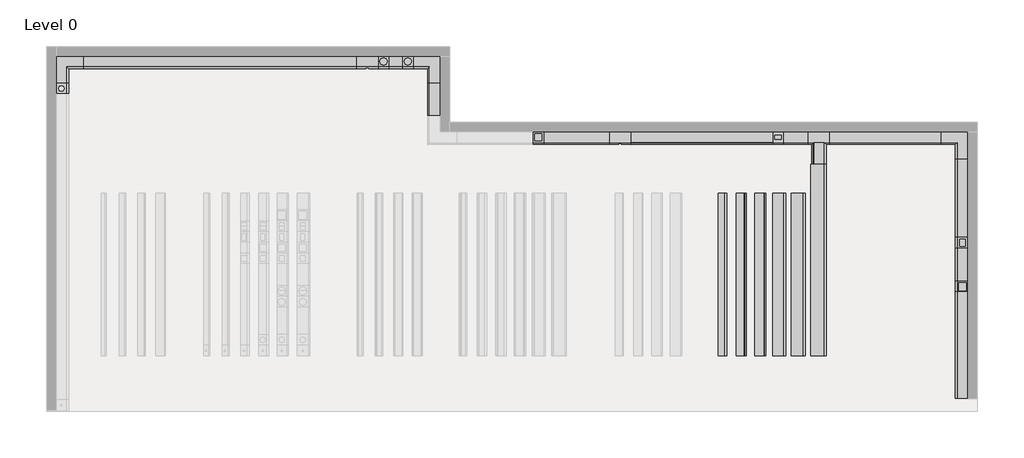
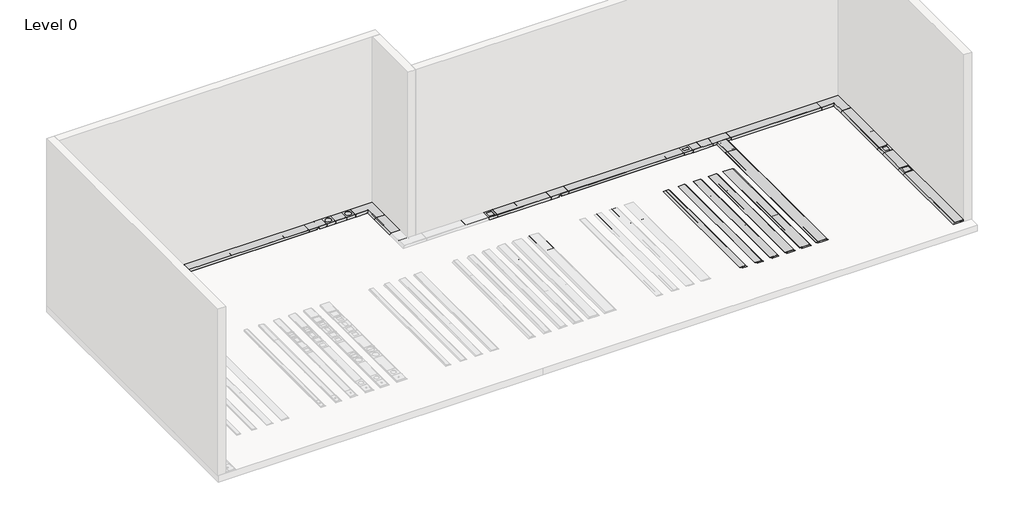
# One storey, part 3 of 3: 47 cable carrier segments, 39 cable carrier fittings, 29 proxies.
"""IFC4 building model written with IfcOpenShell, lengths in millimetres."""

from ifc_helpers import new_model, si_unit, origin, origin_with_axes, place, context, project, spatial, polyline, outline, extrude, transform, mapped, element, save
from components import electrical_fixtures_901f275d, electrical_fixtures_66444e16, electrical_fixtures_59ef84c7, electrical_fixtures_748fc352, electrical_fixtures_5756d35e, electrical_fixtures_1408edab, electrical_fixtures_3be69e12, electrical_fixtures_9ff76af0, electrical_fixtures_7f6fa224, electrical_fixtures_e28efdc0, electrical_fixtures_bae31a8f, electrical_fixtures_b7c22ff1, electrical_fixtures_50d1a96e, electrical_fixtures_1ceebba5, electrical_fixtures_9c56483d, electrical_fixtures_e8eaa7e9, electrical_fixtures_8222793d, electrical_fixtures_f985ebad, electrical_fixtures_32ec25d4, electrical_fixtures_12f8da98, electrical_fixtures_5da70066, electrical_fixtures_c9ef2ea7, electrical_fixtures_32676175, electrical_fixtures_a9ae5c8e, electrical_fixtures_914368cf, electrical_fixtures_8f7f6b38, electrical_fixtures_e075263a, cable_carrier_fitting_c523f5b3, cable_carrier_fitting_c61de814, cable_carrier_fitting_a1d8f8d7, cable_carrier_fitting_54bbb1a4, cable_carrier_fitting_d6a7fd45, cable_carrier_fitting_88479c70, cable_carrier_fitting_c839ef92, cable_carrier_fitting_48e664ff, cable_carrier_fitting_379b033f, cable_carrier_fitting_430507f7, cable_carrier_fitting_90cd9352, cable_carrier_fitting_27d71de1, cable_carrier_fitting_f198d34f, cable_carrier_fitting_eb91abf8

model = new_model("IFC4")

# Units and contexts
model_context = context("Model", 3, world=origin())
ifc_project = project(units=[si_unit("LENGTHUNIT", "METRE", prefix="MILLI")], contexts=[model_context])

# Site, building, storey
site = spatial("IfcSite", under=ifc_project)
building = spatial("IfcBuilding", under=site)
storey = spatial("IfcBuildingStorey", under=building, Name="Level 0", Elevation=0.0)

# Proxies
placement = place(None, origin())
electrical_fixtures_shape = electrical_fixtures_901f275d(model_context)
element("IfcBuildingElementProxy", 1, Name="Electrical_Installation_Hager_Connection-Single-Sided : Electrical_Installation_Hager_Connection-Single-Sided", ObjectType="Electrical_Installation_Hager_Connection-Single-Sided : Electrical_Installation_Hager_Connection-Single-Sided", at=placement, inside=storey, context=model_context, shape_type="MappedRepresentation", body=[
    mapped(electrical_fixtures_shape, transform((3314.0029362, 1709.7565979, 35.0), x_axis=(1.0, 0.0, 0.0), y_axis=(0.0, 1.0, 0.0), z_axis=(0.0, 0.0, 1.0))),
])
element("IfcBuildingElementProxy", 2, Name="Electrical_Installation_Hager_Connection-Single-Sided : Electrical_Installation_Hager_Connection-Single-Sided", ObjectType="Electrical_Installation_Hager_Connection-Single-Sided : Electrical_Installation_Hager_Connection-Single-Sided", at=placement, inside=storey, context=model_context, shape_type="MappedRepresentation", body=[
    mapped(electrical_fixtures_shape, transform((12654.0029362, -1090.2434021, 35.0), x_axis=(1.0, 0.0, 0.0), y_axis=(0.0, 1.0, 0.0), z_axis=(0.0, 0.0, 1.0))),
])
electrical_fixtures_2_shape = electrical_fixtures_66444e16(model_context)
element("IfcBuildingElementProxy", 3, Name="Electrical_Installation_Hager_Covers-With-Installation-Opening-E04 : Electrical_Installation_Hager_Covers-With-Installation-Opening-E04", ObjectType="Electrical_Installation_Hager_Covers-With-Installation-Opening-E04 : Electrical_Installation_Hager_Covers-With-Installation-Opening-E04", at=placement, inside=storey, context=model_context, shape_type="MappedRepresentation", body=[
    mapped(electrical_fixtures_2_shape, transform((18690.9359084, -1090.2434021, 35.0), x_axis=(1.0, 0.0, 0.0), y_axis=(0.0, 1.0, 0.0), z_axis=(0.0, 0.0, 1.0))),
])
electrical_fixtures_3_shape = electrical_fixtures_59ef84c7(model_context)
element("IfcBuildingElementProxy", 4, Name="Electrical_Installation_Hager_Covers-With-Installation-Opening-E09 : Electrical_Installation_Hager_Covers-With-Installation-Opening-E09", ObjectType="Electrical_Installation_Hager_Covers-With-Installation-Opening-E09 : Electrical_Installation_Hager_Covers-With-Installation-Opening-E09", at=placement, inside=storey, context=model_context, shape_type="MappedRepresentation", body=[
    mapped(electrical_fixtures_3_shape, transform((25710.9359084, -4790.2434021, 35.0), x_axis=(0.0, -1.0000000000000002, 0.0), y_axis=(1.0000000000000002, 0.0, 0.0), z_axis=(0.0, 0.0, 1.0))),
])
electrical_fixtures_4_shape = electrical_fixtures_748fc352(model_context)
element("IfcBuildingElementProxy", 5, Name="Electrical_Installation_Hager_Covers-With-Installation-Opening-Q06 : Electrical_Installation_Hager_Covers-With-Installation-Opening-Q06", ObjectType="Electrical_Installation_Hager_Covers-With-Installation-Opening-Q06 : Electrical_Installation_Hager_Covers-With-Installation-Opening-Q06", at=placement, inside=storey, context=model_context, shape_type="MappedRepresentation", body=[
    mapped(electrical_fixtures_4_shape, transform((-3445.9970638, 1709.7565979, 35.0), x_axis=(1.0, 0.0, 0.0), y_axis=(0.0, 1.0, 0.0), z_axis=(0.0, 0.0, 1.0))),
])
electrical_fixtures_5_shape = electrical_fixtures_5756d35e(model_context)
element("IfcBuildingElementProxy", 6, Name="Electrical_Installation_Hager_Covers-With-Installation-Opening-Q08 : Electrical_Installation_Hager_Covers-With-Installation-Opening-Q08", ObjectType="Electrical_Installation_Hager_Covers-With-Installation-Opening-Q08 : Electrical_Installation_Hager_Covers-With-Installation-Opening-Q08", at=placement, inside=storey, context=model_context, shape_type="MappedRepresentation", body=[
    mapped(electrical_fixtures_5_shape, transform((25710.9359084, -6410.2434021, 35.0), x_axis=(0.0, -1.0000000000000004, 0.0), y_axis=(1.0000000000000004, 0.0, 0.0), z_axis=(0.0, 0.0, 1.0))),
])
electrical_fixtures_6_shape = electrical_fixtures_1408edab(model_context)
element("IfcBuildingElementProxy", 7, Name="Electrical_Installation_Hager_Covers-With-Installation-Opening-Q12 : Electrical_Installation_Hager_Covers-With-Installation-Opening-Q12", ObjectType="Electrical_Installation_Hager_Covers-With-Installation-Opening-Q12 : Electrical_Installation_Hager_Covers-With-Installation-Opening-Q12", at=placement, inside=storey, context=model_context, shape_type="MappedRepresentation", body=[
    mapped(electrical_fixtures_6_shape, transform((9832.4694223, -1090.2434021, 35.0), x_axis=(1.0, 0.0, 0.0), y_axis=(0.0, 1.0, 0.0), z_axis=(0.0, 0.0, 1.0))),
])
electrical_fixtures_7_shape = electrical_fixtures_3be69e12(model_context)
element("IfcBuildingElementProxy", 8, Name="Electrical_Installation_Hager_Covers-With-Installation-Opening-R06 : Electrical_Installation_Hager_Covers-With-Installation-Opening-R06", ObjectType="Electrical_Installation_Hager_Covers-With-Installation-Opening-R06 : Electrical_Installation_Hager_Covers-With-Installation-Opening-R06", at=placement, inside=storey, context=model_context, shape_type="MappedRepresentation", body=[
    mapped(electrical_fixtures_7_shape, transform((-7589.0640916, 509.7565979, 35.0), x_axis=(0.0, 1.0000000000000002, 0.0), y_axis=(-1.0000000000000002, 0.0, 0.0), z_axis=(0.0, 0.0, 1.0))),
])
electrical_fixtures_8_shape = electrical_fixtures_9ff76af0(model_context)
element("IfcBuildingElementProxy", 9, Name="Electrical_Installation_Hager_Blank-Cover-800mm-Double-Sided-Extended-100-Height-70mm : Electrical_Installation_Hager_Blank-Cover-800mm-Double-Sided-Extended-100-Height-70mm", ObjectType="Electrical_Installation_Hager_Blank-Cover-800mm-Double-Sided-Extended-100-Height-70mm : Electrical_Installation_Hager_Blank-Cover-800mm-Double-Sided-Extended-100-Height-70mm", at=placement, inside=storey, context=model_context, shape_type="MappedRepresentation", body=[
    mapped(electrical_fixtures_8_shape, transform((19654.0029362, -9175.7909265, 35.0), x_axis=(0.0, 1.0, 0.0), y_axis=(-1.0, 0.0, 0.0), z_axis=(0.0, 0.0, 1.0))),
])
electrical_fixtures_9_shape = electrical_fixtures_7f6fa224(model_context)
element("IfcBuildingElementProxy", 10, Name="Electrical_Installation_Hager_Blank-Cover-800mm-Double-Sided-Extended-100-Height-70mm : Electrical_Installation_Hager_Blank-Cover-800mm-Double-Sided-Extended-100-Height-70mm", ObjectType="Electrical_Installation_Hager_Blank-Cover-800mm-Double-Sided-Extended-100-Height-70mm : Electrical_Installation_Hager_Blank-Cover-800mm-Double-Sided-Extended-100-Height-70mm", at=placement, inside=storey, context=model_context, shape_type="MappedRepresentation", body=[
    mapped(electrical_fixtures_9_shape, transform((20406.0429197, -9175.7909265, 35.0), x_axis=(0.0, 1.0, 0.0), y_axis=(-1.0, 0.0, 0.0), z_axis=(0.0, 0.0, 1.0))),
])
electrical_fixtures_10_shape = electrical_fixtures_e28efdc0(model_context)
element("IfcBuildingElementProxy", 11, Name="Electrical_Installation_Hager_Blank-Cover-800mm-Double-Sided-Extended-100-Height-70mm : Electrical_Installation_Hager_Blank-Cover-800mm-Double-Sided-Extended-100-Height-70mm", ObjectType="Electrical_Installation_Hager_Blank-Cover-800mm-Double-Sided-Extended-100-Height-70mm : Electrical_Installation_Hager_Blank-Cover-800mm-Double-Sided-Extended-100-Height-70mm", at=placement, inside=storey, context=model_context, shape_type="MappedRepresentation", body=[
    mapped(electrical_fixtures_10_shape, transform((18954.0029362, -9175.7909265, 35.0), x_axis=(0.0, 1.0, 0.0), y_axis=(-1.0, 0.0, 0.0), z_axis=(0.0, 0.0, 1.0))),
])
electrical_fixtures_11_shape = electrical_fixtures_bae31a8f(model_context)
element("IfcBuildingElementProxy", 12, Name="Electrical_Installation_Hager_Blank-Cover-800mm-Single-Sided-Height-70mm : Electrical_Installation_Hager_Blank-Cover-800mm-Single-Sided-Height-70mm", ObjectType="Electrical_Installation_Hager_Blank-Cover-800mm-Single-Sided-Height-70mm : Electrical_Installation_Hager_Blank-Cover-800mm-Single-Sided-Height-70mm", at=placement, inside=storey, context=model_context, shape_type="MappedRepresentation", body=[
    mapped(electrical_fixtures_11_shape, transform((-6789.0640916, 1709.7565979, 35.0), x_axis=(1.0, 0.0, 0.0), y_axis=(0.0, 1.0, 0.0), z_axis=(0.0, 0.0, 1.0))),
])
electrical_fixtures_12_shape = electrical_fixtures_b7c22ff1(model_context)
element("IfcBuildingElementProxy", 13, Name="Electrical_Installation_Hager_Blank-Cover-800mm-Single-Sided-Height-70mm : Electrical_Installation_Hager_Blank-Cover-800mm-Single-Sided-Height-70mm", ObjectType="Electrical_Installation_Hager_Blank-Cover-800mm-Single-Sided-Height-70mm : Electrical_Installation_Hager_Blank-Cover-800mm-Single-Sided-Height-70mm", at=placement, inside=storey, context=model_context, shape_type="MappedRepresentation", body=[
    mapped(electrical_fixtures_12_shape, transform((4514.0029362, 1709.7565979, 35.0), x_axis=(1.0, 0.0, 0.0), y_axis=(0.0, 1.0, 0.0), z_axis=(0.0, 0.0, 1.0))),
])
electrical_fixtures_13_shape = electrical_fixtures_50d1a96e(model_context)
element("IfcBuildingElementProxy", 14, Name="Electrical_Installation_Hager_Blank-Cover-800mm-Single-Sided-Height-70mm : Electrical_Installation_Hager_Blank-Cover-800mm-Single-Sided-Height-70mm", ObjectType="Electrical_Installation_Hager_Blank-Cover-800mm-Single-Sided-Height-70mm : Electrical_Installation_Hager_Blank-Cover-800mm-Single-Sided-Height-70mm", at=placement, inside=storey, context=model_context, shape_type="MappedRepresentation", body=[
    mapped(electrical_fixtures_13_shape, transform((6210.9359084, 909.7565979, 35.0), x_axis=(0.0, -1.0, 0.0), y_axis=(1.0, 0.0, 0.0), z_axis=(0.0, 0.0, 1.0))),
])
electrical_fixtures_14_shape = electrical_fixtures_1ceebba5(model_context)
element("IfcBuildingElementProxy", 15, Name="Electrical_Installation_Hager_Blank-Cover-800mm-Single-Sided-Height-70mm : Electrical_Installation_Hager_Blank-Cover-800mm-Single-Sided-Height-70mm", ObjectType="Electrical_Installation_Hager_Blank-Cover-800mm-Single-Sided-Height-70mm : Electrical_Installation_Hager_Blank-Cover-800mm-Single-Sided-Height-70mm", at=placement, inside=storey, context=model_context, shape_type="MappedRepresentation", body=[
    mapped(electrical_fixtures_14_shape, transform((10232.4694223, -1090.2434021, 35.0), x_axis=(1.0, 0.0, 0.0), y_axis=(0.0, 1.0, 0.0), z_axis=(0.0, 0.0, 1.0))),
])
electrical_fixtures_15_shape = electrical_fixtures_9c56483d(model_context)
element("IfcBuildingElementProxy", 16, Name="Electrical_Installation_Hager_Blank-Cover-800mm-Single-Sided-Height-70mm : Electrical_Installation_Hager_Blank-Cover-800mm-Single-Sided-Height-70mm", ObjectType="Electrical_Installation_Hager_Blank-Cover-800mm-Single-Sided-Height-70mm : Electrical_Installation_Hager_Blank-Cover-800mm-Single-Sided-Height-70mm", at=placement, inside=storey, context=model_context, shape_type="MappedRepresentation", body=[
    mapped(electrical_fixtures_15_shape, transform((20806.0429197, -1090.2434021, 35.0), x_axis=(1.0, 0.0, 0.0), y_axis=(0.0, 1.0, 0.0), z_axis=(0.0, 0.0, 1.0))),
])
electrical_fixtures_16_shape = electrical_fixtures_e8eaa7e9(model_context)
element("IfcBuildingElementProxy", 17, Name="Electrical_Installation_Hager_Blank-Cover-800mm-Single-Sided-Height-70mm : Electrical_Installation_Hager_Blank-Cover-800mm-Single-Sided-Height-70mm", ObjectType="Electrical_Installation_Hager_Blank-Cover-800mm-Single-Sided-Height-70mm : Electrical_Installation_Hager_Blank-Cover-800mm-Single-Sided-Height-70mm", at=placement, inside=storey, context=model_context, shape_type="MappedRepresentation", body=[
    mapped(electrical_fixtures_16_shape, transform((25710.9359084, -6810.2434021, 35.0), x_axis=(0.0, -1.0, 0.0), y_axis=(1.0, 0.0, 0.0), z_axis=(0.0, 0.0, 1.0))),
])
electrical_fixtures_17_shape = electrical_fixtures_8222793d(model_context)
element("IfcBuildingElementProxy", 18, Name="Electrical_Installation_Hager_Blank-Cover-800mm-Single-Sided-Height-70mm : Electrical_Installation_Hager_Blank-Cover-800mm-Single-Sided-Height-70mm", ObjectType="Electrical_Installation_Hager_Blank-Cover-800mm-Single-Sided-Height-70mm : Electrical_Installation_Hager_Blank-Cover-800mm-Single-Sided-Height-70mm", at=placement, inside=storey, context=model_context, shape_type="MappedRepresentation", body=[
    mapped(electrical_fixtures_17_shape, transform((13454.0029362, -1090.2434021, 35.0), x_axis=(1.0, 0.0, 0.0), y_axis=(0.0, 1.0, 0.0), z_axis=(0.0, 0.0, 1.0))),
])
electrical_fixtures_18_shape = electrical_fixtures_f985ebad(model_context)
element("IfcBuildingElementProxy", 19, Name="Electrical_Installation_Hager_Blank-Cover-800mm-Single-Sided-Height-70mm : Electrical_Installation_Hager_Blank-Cover-800mm-Single-Sided-Height-70mm", ObjectType="Electrical_Installation_Hager_Blank-Cover-800mm-Single-Sided-Height-70mm : Electrical_Installation_Hager_Blank-Cover-800mm-Single-Sided-Height-70mm", at=placement, inside=storey, context=model_context, shape_type="MappedRepresentation", body=[
    mapped(electrical_fixtures_18_shape, transform((25710.9359084, -5190.2434021, 35.0), x_axis=(0.0, -1.0, 0.0), y_axis=(1.0, 0.0, 0.0), z_axis=(0.0, 0.0, 1.0))),
])
electrical_fixtures_19_shape = electrical_fixtures_32ec25d4(model_context)
element("IfcBuildingElementProxy", 20, Name="Electrical_Installation_Hager_Blank-Cover-800mm-Single-Sided-Height-70mm : Electrical_Installation_Hager_Blank-Cover-800mm-Single-Sided-Height-70mm", ObjectType="Electrical_Installation_Hager_Blank-Cover-800mm-Single-Sided-Height-70mm : Electrical_Installation_Hager_Blank-Cover-800mm-Single-Sided-Height-70mm", at=placement, inside=storey, context=model_context, shape_type="MappedRepresentation", body=[
    mapped(electrical_fixtures_19_shape, transform((25710.9359084, -1890.2434021, 35.0), x_axis=(0.0, -1.0, 0.0), y_axis=(1.0, 0.0, 0.0), z_axis=(0.0, 0.0, 1.0))),
])
electrical_fixtures_20_shape = electrical_fixtures_12f8da98(model_context)
element("IfcBuildingElementProxy", 21, Name="Electrical_Installation_Hager_Blank-Cover-800mm-Single-Sided-Height-70mm : Electrical_Installation_Hager_Blank-Cover-800mm-Single-Sided-Height-70mm", ObjectType="Electrical_Installation_Hager_Blank-Cover-800mm-Single-Sided-Height-70mm : Electrical_Installation_Hager_Blank-Cover-800mm-Single-Sided-Height-70mm", at=placement, inside=storey, context=model_context, shape_type="MappedRepresentation", body=[
    mapped(electrical_fixtures_20_shape, transform((20006.0429197, -1090.2434021, 35.0), x_axis=(-1.0, 0.0, 0.0), y_axis=(0.0, -1.0, 0.0), z_axis=(0.0, 0.0, 1.0))),
])
electrical_fixtures_21_shape = electrical_fixtures_5da70066(model_context)
element("IfcBuildingElementProxy", 22, Name="Electrical_Installation_Hager_Partition-Wall : Electrical_Installation_Hager_Partition-Wall", ObjectType="Electrical_Installation_Hager_Partition-Wall : Electrical_Installation_Hager_Partition-Wall", at=placement, inside=storey, context=model_context, shape_type="MappedRepresentation", body=[
    mapped(electrical_fixtures_21_shape, transform((-7658.0640916, 1709.7565979, 35.0), x_axis=(1.0, 0.0, 0.0), y_axis=(0.0, 1.0, 0.0), z_axis=(0.0, 0.0, 1.0))),
])
electrical_fixtures_22_shape = electrical_fixtures_c9ef2ea7(model_context)
element("IfcBuildingElementProxy", 23, Name="Electrical_Installation_Hager_Partition-Wall : Electrical_Installation_Hager_Partition-Wall", ObjectType="Electrical_Installation_Hager_Partition-Wall : Electrical_Installation_Hager_Partition-Wall", at=placement, inside=storey, context=model_context, shape_type="MappedRepresentation", body=[
    mapped(electrical_fixtures_22_shape, transform((6210.9359084, 1778.7565979, 35.0), x_axis=(0.0, -1.0, 0.0), y_axis=(1.0, 0.0, 0.0), z_axis=(0.0, 0.0, 1.0))),
])
electrical_fixtures_23_shape = electrical_fixtures_32676175(model_context)
element("IfcBuildingElementProxy", 24, Name="Electrical_Installation_Hager_Partition-Wall : Electrical_Installation_Hager_Partition-Wall", ObjectType="Electrical_Installation_Hager_Partition-Wall : Electrical_Installation_Hager_Partition-Wall", at=placement, inside=storey, context=model_context, shape_type="MappedRepresentation", body=[
    mapped(electrical_fixtures_23_shape, transform((25710.9359084, -1021.2434021, 35.0), x_axis=(0.0, -1.0, 0.0), y_axis=(1.0, 0.0, 0.0), z_axis=(0.0, 0.0, 1.0))),
])
electrical_fixtures_24_shape = electrical_fixtures_a9ae5c8e(model_context)
element("IfcBuildingElementProxy", 25, Name="Electrical_Installation_Hager_Blank-Cover-400mm-Double-Sided-Extended-100-Height-70mm : Electrical_Installation_Hager_Blank-Cover-400mm-Double-Sided-Extended-100-Height-70mm", ObjectType="Electrical_Installation_Hager_Blank-Cover-400mm-Double-Sided-Extended-100-Height-70mm : Electrical_Installation_Hager_Blank-Cover-400mm-Double-Sided-Extended-100-Height-70mm", at=placement, inside=storey, context=model_context, shape_type="MappedRepresentation", body=[
    mapped(electrical_fixtures_24_shape, transform((16854.0029362, -9175.7909265, 35.0), x_axis=(0.0, 1.0, 0.0), y_axis=(-1.0, 0.0, 0.0), z_axis=(0.0, 0.0, 1.0))),
])
electrical_fixtures_25_shape = electrical_fixtures_914368cf(model_context)
element("IfcBuildingElementProxy", 26, Name="Electrical_Installation_Hager_Blank-Cover-400mm-Double-Sided-Extended-100-Height-70mm : Electrical_Installation_Hager_Blank-Cover-400mm-Double-Sided-Extended-100-Height-70mm", ObjectType="Electrical_Installation_Hager_Blank-Cover-400mm-Double-Sided-Extended-100-Height-70mm : Electrical_Installation_Hager_Blank-Cover-400mm-Double-Sided-Extended-100-Height-70mm", at=placement, inside=storey, context=model_context, shape_type="MappedRepresentation", body=[
    mapped(electrical_fixtures_25_shape, transform((17554.0029362, -9175.7909265, 35.0), x_axis=(0.0, 1.0, 0.0), y_axis=(-1.0, 0.0, 0.0), z_axis=(0.0, 0.0, 1.0))),
])
electrical_fixtures_26_shape = electrical_fixtures_8f7f6b38(model_context)
element("IfcBuildingElementProxy", 27, Name="Electrical_Installation_Hager_Blank-Cover-400mm-Double-Sided-Extended-100-Height-70mm : Electrical_Installation_Hager_Blank-Cover-400mm-Double-Sided-Extended-100-Height-70mm", ObjectType="Electrical_Installation_Hager_Blank-Cover-400mm-Double-Sided-Extended-100-Height-70mm : Electrical_Installation_Hager_Blank-Cover-400mm-Double-Sided-Extended-100-Height-70mm", at=placement, inside=storey, context=model_context, shape_type="MappedRepresentation", body=[
    mapped(electrical_fixtures_26_shape, transform((18254.0029362, -9175.7909265, 35.0), x_axis=(0.0, 1.0, 0.0), y_axis=(-1.0, 0.0, 0.0), z_axis=(0.0, 0.0, 1.0))),
])
electrical_fixtures_27_shape = electrical_fixtures_e075263a(model_context)
element("IfcBuildingElementProxy", 28, Name="Electrical_Installation_Hager_Covers-With-Installation-Opening-R10 : Electrical_Installation_Hager_Covers-With-Installation-Opening-R10", ObjectType="Electrical_Installation_Hager_Covers-With-Installation-Opening-R10 : Electrical_Installation_Hager_Covers-With-Installation-Opening-R10", at=placement, inside=storey, context=model_context, shape_type="MappedRepresentation", body=[
    mapped(electrical_fixtures_27_shape, transform((4114.0029362, 1709.7565979, 35.0), x_axis=(1.0, 0.0, 0.0), y_axis=(0.0, 1.0, 0.0), z_axis=(0.0, 0.0, 1.0))),
])
element("IfcBuildingElementProxy", 29, Name="Electrical_Installation_Hager_Covers-With-Installation-Opening-R10 : Electrical_Installation_Hager_Covers-With-Installation-Opening-R10", ObjectType="Electrical_Installation_Hager_Covers-With-Installation-Opening-R10 : Electrical_Installation_Hager_Covers-With-Installation-Opening-R10", at=placement, inside=storey, context=model_context, shape_type="MappedRepresentation", body=[
    mapped(electrical_fixtures_27_shape, transform((5010.9359084, 1709.7565979, 35.0), x_axis=(1.0, 0.0, 0.0), y_axis=(0.0, 1.0, 0.0), z_axis=(0.0, 0.0, 1.0))),
])

# Cable carrier fittings
cable_carrier_fitting_shape = cable_carrier_fitting_c523f5b3(model_context)
element("IfcCableCarrierFitting", 30, ObjectType="Electrical_Installation_Hager_Trunking-Connector : Electrical_Installation_Hager_Trunking-Connector", at=placement, inside=storey, context=model_context, shape_type="MappedRepresentation", body=[
    mapped(cable_carrier_fitting_shape, transform((16854.0029362, -6772.7909265, 35.0), x_axis=(0.0, 1.0, 0.0), y_axis=(1.0, 0.0, 0.0), z_axis=(0.0, 0.0, -1.0))),
])
element("IfcCableCarrierFitting", 31, ObjectType="Electrical_Installation_Hager_Trunking-Connector : Electrical_Installation_Hager_Trunking-Connector", at=placement, inside=storey, context=model_context, shape_type="MappedRepresentation", body=[
    mapped(cable_carrier_fitting_shape, transform((16854.0029362, -4372.7909265, 35.0), x_axis=(0.0, 1.0, 0.0), y_axis=(1.0, 0.0, 0.0), z_axis=(0.0, 0.0, -1.0))),
])
cable_carrier_fitting_2_shape = cable_carrier_fitting_c61de814(model_context)
element("IfcCableCarrierFitting", 32, ObjectType="Electrical_Installation_Hager_End-Piece : Electrical_Installation_Hager_End-Piece", at=placement, inside=storey, context=model_context, shape_type="MappedRepresentation", body=[
    mapped(cable_carrier_fitting_2_shape, transform((20406.0429197, -9172.7909265, 35.0), x_axis=(0.0, -1.0, 0.0), y_axis=(1.0, 0.0, 0.0), z_axis=(0.0, 0.0, 1.0))),
])
element("IfcCableCarrierFitting", 33, ObjectType="Electrical_Installation_Hager_End-Piece : Electrical_Installation_Hager_End-Piece", at=placement, inside=storey, context=model_context, shape_type="MappedRepresentation", body=[
    mapped(cable_carrier_fitting_2_shape, transform((25710.9359084, -10733.2434021, 35.0), x_axis=(0.0, 1.0, 0.0), y_axis=(-1.0, 0.0, 0.0), z_axis=(0.0, 0.0, 1.0))),
])
cable_carrier_fitting_3_shape = cable_carrier_fitting_a1d8f8d7(model_context)
element("IfcCableCarrierFitting", 34, ObjectType="Electrical_Installation_Hager_End-Piece : Electrical_Installation_Hager_End-Piece", at=placement, inside=storey, context=model_context, shape_type="MappedRepresentation", body=[
    mapped(cable_carrier_fitting_3_shape, transform((19654.0029362, -9172.7909265, 35.0), x_axis=(0.0, -1.0, 0.0), y_axis=(1.0, 0.0, 0.0), z_axis=(0.0, 0.0, 1.0))),
])
cable_carrier_fitting_4_shape = cable_carrier_fitting_54bbb1a4(model_context)
element("IfcCableCarrierFitting", 35, ObjectType="Electrical_Installation_Hager_End-Piece : Electrical_Installation_Hager_End-Piece", at=placement, inside=storey, context=model_context, shape_type="MappedRepresentation", body=[
    mapped(cable_carrier_fitting_4_shape, transform((18254.0029362, -9172.7909265, 35.0), x_axis=(0.0, -1.0, 0.0), y_axis=(1.0, 0.0, 0.0), z_axis=(0.0, 0.0, 1.0))),
])
cable_carrier_fitting_5_shape = cable_carrier_fitting_d6a7fd45(model_context)
element("IfcCableCarrierFitting", 36, ObjectType="Electrical_Installation_Hager_End-Piece : Electrical_Installation_Hager_End-Piece", at=placement, inside=storey, context=model_context, shape_type="MappedRepresentation", body=[
    mapped(cable_carrier_fitting_5_shape, transform((17554.0029362, -9172.7909265, 35.0), x_axis=(0.0, -1.0, 0.0), y_axis=(1.0, 0.0, 0.0), z_axis=(0.0, 0.0, 1.0))),
])
cable_carrier_fitting_6_shape = cable_carrier_fitting_88479c70(model_context)
element("IfcCableCarrierFitting", 37, ObjectType="Electrical_Installation_Hager_End-Piece : Electrical_Installation_Hager_End-Piece", at=placement, inside=storey, context=model_context, shape_type="MappedRepresentation", body=[
    mapped(cable_carrier_fitting_6_shape, transform((18954.0029362, -9172.7909265, 35.0), x_axis=(0.0, -1.0, 0.0), y_axis=(1.0, 0.0, 0.0), z_axis=(0.0, 0.0, 1.0))),
])
cable_carrier_fitting_7_shape = cable_carrier_fitting_c839ef92(model_context)
element("IfcCableCarrierFitting", 38, ObjectType="Electrical_Installation_Hager_End-Piece : Electrical_Installation_Hager_End-Piece", at=placement, inside=storey, context=model_context, shape_type="MappedRepresentation", body=[
    mapped(cable_carrier_fitting_7_shape, transform((16854.0029362, -9172.7909265, 35.0), x_axis=(0.0, -1.0, 0.0), y_axis=(1.0, 0.0, 0.0), z_axis=(0.0, 0.0, 1.0))),
])
cable_carrier_fitting_8_shape = cable_carrier_fitting_48e664ff(model_context)
element("IfcCableCarrierFitting", 39, ObjectType="Electrical_Installation_Hager_Horizontal-Tee : Electrical_Installation_Hager_Horizontal-Tee", at=placement, inside=storey, context=model_context, shape_type="MappedRepresentation", body=[
    mapped(cable_carrier_fitting_8_shape, transform((20406.0429197, -1090.2434021, 35.0), x_axis=(1.0, 0.0, 0.0), y_axis=(0.0, 1.0, 0.0), z_axis=(0.0, 0.0, 1.0))),
])
cable_carrier_fitting_9_shape = cable_carrier_fitting_379b033f(model_context)
element("IfcCableCarrierFitting", 40, ObjectType="Electrical_Installation_Hager_Inner-And-Outer-Corner : Electrical_Installation_Hager_Inner-And-Outer-Corner", at=placement, inside=storey, context=model_context, shape_type="MappedRepresentation", body=[
    mapped(cable_carrier_fitting_9_shape, transform((6210.9359084, 1709.7565979, 35.0), x_axis=(0.0, 1.0, 0.0), y_axis=(-1.0, 0.0, 0.0), z_axis=(0.0, 0.0, 1.0))),
])
element("IfcCableCarrierFitting", 41, ObjectType="Electrical_Installation_Hager_Inner-And-Outer-Corner : Electrical_Installation_Hager_Inner-And-Outer-Corner", at=placement, inside=storey, context=model_context, shape_type="MappedRepresentation", body=[
    mapped(cable_carrier_fitting_9_shape, transform((25710.9359084, -1090.2434021, 35.0), x_axis=(0.0, 1.0, 0.0), y_axis=(-1.0, 0.0, 0.0), z_axis=(0.0, 0.0, 1.0))),
])
element("IfcCableCarrierFitting", 42, ObjectType="Electrical_Installation_Hager_Inner-And-Outer-Corner : Electrical_Installation_Hager_Inner-And-Outer-Corner", at=placement, inside=storey, context=model_context, shape_type="MappedRepresentation", body=[
    mapped(cable_carrier_fitting_9_shape, transform((-7589.0640916, 1709.7565979, 35.0), x_axis=(-1.0, 0.0, 0.0), y_axis=(0.0, -1.0, 0.0), z_axis=(0.0, 0.0, 1.0))),
])
cable_carrier_fitting_10_shape = cable_carrier_fitting_430507f7(model_context)
element("IfcCableCarrierFitting", 43, ObjectType="Electrical_Installation_Hager_Trunking-Connector : Electrical_Installation_Hager_Trunking-Connector", at=placement, inside=storey, context=model_context, shape_type="MappedRepresentation", body=[
    mapped(cable_carrier_fitting_10_shape, transform((17554.0029362, -6772.7909265, 35.0), x_axis=(0.0, 1.0, 0.0), y_axis=(1.0, 0.0, 0.0), z_axis=(0.0, 0.0, -1.0))),
])
element("IfcCableCarrierFitting", 44, ObjectType="Electrical_Installation_Hager_Trunking-Connector : Electrical_Installation_Hager_Trunking-Connector", at=placement, inside=storey, context=model_context, shape_type="MappedRepresentation", body=[
    mapped(cable_carrier_fitting_10_shape, transform((17554.0029362, -4372.7909265, 35.0), x_axis=(0.0, 1.0, 0.0), y_axis=(1.0, 0.0, 0.0), z_axis=(0.0, 0.0, -1.0))),
])
cable_carrier_fitting_11_shape = cable_carrier_fitting_90cd9352(model_context)
element("IfcCableCarrierFitting", 45, ObjectType="Electrical_Installation_Hager_Trunking-Connector : Electrical_Installation_Hager_Trunking-Connector", at=placement, inside=storey, context=model_context, shape_type="MappedRepresentation", body=[
    mapped(cable_carrier_fitting_11_shape, transform((18254.0029362, -6772.7909265, 35.0), x_axis=(0.0, 1.0, 0.0), y_axis=(1.0, 0.0, 0.0), z_axis=(0.0, 0.0, -1.0))),
])
element("IfcCableCarrierFitting", 46, ObjectType="Electrical_Installation_Hager_Trunking-Connector : Electrical_Installation_Hager_Trunking-Connector", at=placement, inside=storey, context=model_context, shape_type="MappedRepresentation", body=[
    mapped(cable_carrier_fitting_11_shape, transform((18254.0029362, -4372.7909265, 35.0), x_axis=(0.0, 1.0, 0.0), y_axis=(1.0, 0.0, 0.0), z_axis=(0.0, 0.0, -1.0))),
])
cable_carrier_fitting_12_shape = cable_carrier_fitting_27d71de1(model_context)
element("IfcCableCarrierFitting", 47, ObjectType="Electrical_Installation_Hager_Trunking-Connector : Electrical_Installation_Hager_Trunking-Connector", at=placement, inside=storey, context=model_context, shape_type="MappedRepresentation", body=[
    mapped(cable_carrier_fitting_12_shape, transform((18954.0029362, -6772.7909265, 35.0), x_axis=(0.0, 1.0, 0.0), y_axis=(1.0, 0.0, 0.0), z_axis=(0.0, 0.0, -1.0))),
])
element("IfcCableCarrierFitting", 48, ObjectType="Electrical_Installation_Hager_Trunking-Connector : Electrical_Installation_Hager_Trunking-Connector", at=placement, inside=storey, context=model_context, shape_type="MappedRepresentation", body=[
    mapped(cable_carrier_fitting_12_shape, transform((18954.0029362, -4372.7909265, 35.0), x_axis=(0.0, 1.0, 0.0), y_axis=(1.0, 0.0, 0.0), z_axis=(0.0, 0.0, -1.0))),
])
cable_carrier_fitting_13_shape = cable_carrier_fitting_f198d34f(model_context)
element("IfcCableCarrierFitting", 49, ObjectType="Electrical_Installation_Hager_Trunking-Connector : Electrical_Installation_Hager_Trunking-Connector", at=placement, inside=storey, context=model_context, shape_type="MappedRepresentation", body=[
    mapped(cable_carrier_fitting_13_shape, transform((19654.0029362, -6772.7909265, 35.0), x_axis=(0.0, 1.0, 0.0), y_axis=(1.0, 0.0, 0.0), z_axis=(0.0, 0.0, -1.0))),
])
element("IfcCableCarrierFitting", 50, ObjectType="Electrical_Installation_Hager_Trunking-Connector : Electrical_Installation_Hager_Trunking-Connector", at=placement, inside=storey, context=model_context, shape_type="MappedRepresentation", body=[
    mapped(cable_carrier_fitting_13_shape, transform((19654.0029362, -4372.7909265, 35.0), x_axis=(0.0, 1.0, 0.0), y_axis=(1.0, 0.0, 0.0), z_axis=(0.0, 0.0, -1.0))),
])
cable_carrier_fitting_14_shape = cable_carrier_fitting_eb91abf8(model_context)
element("IfcCableCarrierFitting", 51, ObjectType="Electrical_Installation_Hager_Trunking-Connector : Electrical_Installation_Hager_Trunking-Connector", at=placement, inside=storey, context=model_context, shape_type="MappedRepresentation", body=[
    mapped(cable_carrier_fitting_14_shape, transform((20406.0429197, -6772.7909265, 35.0), x_axis=(0.0, 1.0, 0.0), y_axis=(1.0, 0.0, 0.0), z_axis=(0.0, 0.0, -1.0))),
])
element("IfcCableCarrierFitting", 52, ObjectType="Electrical_Installation_Hager_Trunking-Connector : Electrical_Installation_Hager_Trunking-Connector", at=placement, inside=storey, context=model_context, shape_type="MappedRepresentation", body=[
    mapped(cable_carrier_fitting_14_shape, transform((20406.0429197, -4372.7909265, 35.0), x_axis=(0.0, 1.0, 0.0), y_axis=(1.0, 0.0, 0.0), z_axis=(0.0, 0.0, -1.0))),
])
element("IfcCableCarrierFitting", 53, ObjectType="Electrical_Installation_Hager_Trunking-Connector : Electrical_Installation_Hager_Trunking-Connector", at=placement, inside=storey, context=model_context, shape_type="MappedRepresentation", body=[
    mapped(cable_carrier_fitting_14_shape, transform((-7589.0640916, 809.7565979, 35.0), x_axis=(0.0, 1.0, 0.0), y_axis=(1.0, 0.0, 0.0), z_axis=(0.0, 0.0, -1.0))),
])
element("IfcCableCarrierFitting", 54, ObjectType="Electrical_Installation_Hager_Trunking-Connector : Electrical_Installation_Hager_Trunking-Connector", at=placement, inside=storey, context=model_context, shape_type="MappedRepresentation", body=[
    mapped(cable_carrier_fitting_14_shape, transform((-4989.0640916, 1709.7565979, 35.0), x_axis=(1.0, 0.0, 0.0), y_axis=(0.0, -1.0, 0.0), z_axis=(0.0, 0.0, -1.0))),
])
element("IfcCableCarrierFitting", 55, ObjectType="Electrical_Installation_Hager_Trunking-Connector : Electrical_Installation_Hager_Trunking-Connector", at=placement, inside=storey, context=model_context, shape_type="MappedRepresentation", body=[
    mapped(cable_carrier_fitting_14_shape, transform((-2589.0640916, 1709.7565979, 35.0), x_axis=(1.0, 0.0, 0.0), y_axis=(0.0, -1.0, 0.0), z_axis=(0.0, 0.0, -1.0))),
])
element("IfcCableCarrierFitting", 56, ObjectType="Electrical_Installation_Hager_Trunking-Connector : Electrical_Installation_Hager_Trunking-Connector", at=placement, inside=storey, context=model_context, shape_type="MappedRepresentation", body=[
    mapped(cable_carrier_fitting_14_shape, transform((-189.0640916, 1709.7565979, 35.0), x_axis=(1.0, 0.0, 0.0), y_axis=(0.0, -1.0, 0.0), z_axis=(0.0, 0.0, -1.0))),
])
element("IfcCableCarrierFitting", 57, ObjectType="Electrical_Installation_Hager_Trunking-Connector : Electrical_Installation_Hager_Trunking-Connector", at=placement, inside=storey, context=model_context, shape_type="MappedRepresentation", body=[
    mapped(cable_carrier_fitting_14_shape, transform((2210.9359084, 1709.7565979, 35.0), x_axis=(1.0, 0.0, 0.0), y_axis=(0.0, -1.0, 0.0), z_axis=(0.0, 0.0, -1.0))),
])
element("IfcCableCarrierFitting", 58, ObjectType="Electrical_Installation_Hager_Trunking-Connector : Electrical_Installation_Hager_Trunking-Connector", at=placement, inside=storey, context=model_context, shape_type="MappedRepresentation", body=[
    mapped(cable_carrier_fitting_14_shape, transform((8809.7529362, -1090.2434021, 35.0), x_axis=(1.0, 0.0, 0.0), y_axis=(0.0, -1.0, 0.0), z_axis=(0.0, 0.0, -1.0))),
])
element("IfcCableCarrierFitting", 59, ObjectType="Electrical_Installation_Hager_Trunking-Connector : Electrical_Installation_Hager_Trunking-Connector", at=placement, inside=storey, context=model_context, shape_type="MappedRepresentation", body=[
    mapped(cable_carrier_fitting_14_shape, transform((11209.7359084, -1090.2434021, 35.0), x_axis=(1.0, 0.0, 0.0), y_axis=(0.0, -1.0, 0.0), z_axis=(0.0, 0.0, -1.0))),
])
element("IfcCableCarrierFitting", 60, ObjectType="Electrical_Installation_Hager_Trunking-Connector : Electrical_Installation_Hager_Trunking-Connector", at=placement, inside=storey, context=model_context, shape_type="MappedRepresentation", body=[
    mapped(cable_carrier_fitting_14_shape, transform((15504.0029362, -1090.2434021, 35.0), x_axis=(1.0, 0.0, 0.0), y_axis=(0.0, -1.0, 0.0), z_axis=(0.0, 0.0, -1.0))),
])
element("IfcCableCarrierFitting", 61, ObjectType="Electrical_Installation_Hager_Trunking-Connector : Electrical_Installation_Hager_Trunking-Connector", at=placement, inside=storey, context=model_context, shape_type="MappedRepresentation", body=[
    mapped(cable_carrier_fitting_14_shape, transform((17904.0029362, -1090.2434021, 35.0), x_axis=(1.0, 0.0, 0.0), y_axis=(0.0, -1.0, 0.0), z_axis=(0.0, 0.0, -1.0))),
])
element("IfcCableCarrierFitting", 62, ObjectType="Electrical_Installation_Hager_Trunking-Connector : Electrical_Installation_Hager_Trunking-Connector", at=placement, inside=storey, context=model_context, shape_type="MappedRepresentation", body=[
    mapped(cable_carrier_fitting_14_shape, transform((23110.9359084, -1090.2434021, 35.0), x_axis=(1.0, 0.0, 0.0), y_axis=(0.0, -1.0, 0.0), z_axis=(0.0, 0.0, -1.0))),
])
element("IfcCableCarrierFitting", 63, ObjectType="Electrical_Installation_Hager_Trunking-Connector : Electrical_Installation_Hager_Trunking-Connector", at=placement, inside=storey, context=model_context, shape_type="MappedRepresentation", body=[
    mapped(cable_carrier_fitting_14_shape, transform((25710.9359084, -8490.2434021, 35.0), x_axis=(0.0, -1.0, 0.0), y_axis=(-1.0, 0.0, 0.0), z_axis=(0.0, 0.0, -1.0))),
])
element("IfcCableCarrierFitting", 64, ObjectType="Electrical_Installation_Hager_Trunking-Connector : Electrical_Installation_Hager_Trunking-Connector", at=placement, inside=storey, context=model_context, shape_type="MappedRepresentation", body=[
    mapped(cable_carrier_fitting_14_shape, transform((25710.9359084, -6090.2434021, 35.0), x_axis=(0.0, -1.0, 0.0), y_axis=(-1.0, 0.0, 0.0), z_axis=(0.0, 0.0, -1.0))),
])
element("IfcCableCarrierFitting", 65, ObjectType="Electrical_Installation_Hager_Trunking-Connector : Electrical_Installation_Hager_Trunking-Connector", at=placement, inside=storey, context=model_context, shape_type="MappedRepresentation", body=[
    mapped(cable_carrier_fitting_14_shape, transform((25710.9359084, -3690.2434021, 35.0), x_axis=(0.0, -1.0, 0.0), y_axis=(-1.0, 0.0, 0.0), z_axis=(0.0, 0.0, -1.0))),
])
element("IfcCableCarrierFitting", 66, ObjectType="Electrical_Installation_Hager_Trunking-Connector : Electrical_Installation_Hager_Trunking-Connector", at=placement, inside=storey, context=model_context, shape_type="MappedRepresentation", body=[
    mapped(cable_carrier_fitting_14_shape, transform((20406.0429197, -2010.2434021, 35.0), x_axis=(0.0, 1.0, 0.0), y_axis=(1.0, 0.0, 0.0), z_axis=(0.0, 0.0, -1.0))),
])
element("IfcCableCarrierFitting", 67, ObjectType="Electrical_Installation_Hager_Trunking-Connector : Electrical_Installation_Hager_Trunking-Connector", at=placement, inside=storey, context=model_context, shape_type="MappedRepresentation", body=[
    mapped(cable_carrier_fitting_14_shape, transform((21610.9359084, -1090.2434021, 35.0), x_axis=(1.0, 0.0, 0.0), y_axis=(0.0, -1.0, 0.0), z_axis=(0.0, 0.0, -1.0))),
])
element("IfcCableCarrierFitting", 68, ObjectType="Electrical_Installation_Hager_Trunking-Connector : Electrical_Installation_Hager_Trunking-Connector", at=placement, inside=storey, context=model_context, shape_type="MappedRepresentation", body=[
    mapped(cable_carrier_fitting_14_shape, transform((19479.0029362, -1090.2434021, 35.0), x_axis=(1.0, 0.0, 0.0), y_axis=(0.0, -1.0, 0.0), z_axis=(0.0, 0.0, -1.0))),
])

# Cable carrier segments
element("IfcCableCarrierSegment", 69, ObjectType="Electrical_Installations_Cable-Trays_Hager_Trunking-Lower-Part-Double-Sided", at=placement, inside=storey, context=model_context, shape_type="SweptSolid", body=[
    extrude(outline(polyline([(9504.0029362, -4372.7909265), (9204.0029362, -4372.7909265), (9204.0029362, -3164.0952507), (9504.0029362, -3164.0952507), (9504.0029362, -4372.7909265)])), origin_with_axes(), (0.0, 0.0, 1.0), 70.0),
])
element("IfcCableCarrierSegment", 70, ObjectType="Electrical_Installations_Cable-Trays_Hager_Trunking-Lower-Part-Double-Sided", at=placement, inside=storey, context=model_context, shape_type="SweptSolid", body=[
    extrude(outline(polyline([(10229.0029362, -4372.7909265), (9879.0029362, -4372.7909265), (9879.0029362, -3164.0952507), (10229.0029362, -3164.0952507), (10229.0029362, -4372.7909265)])), origin_with_axes(), (0.0, 0.0, 1.0), 70.0),
])
element("IfcCableCarrierSegment", 71, ObjectType="Electrical_Installations_Cable-Trays_Hager_Trunking-Lower-Part-Double-Sided", at=placement, inside=storey, context=model_context, shape_type="SweptSolid", body=[
    extrude(outline(polyline([(11006.0429197, -4372.7909265), (10606.0429197, -4372.7909265), (10606.0429197, -3164.0952507), (11006.0429197, -3164.0952507), (11006.0429197, -4372.7909265)])), origin_with_axes(), (0.0, 0.0, 1.0), 70.0),
])
element("IfcCableCarrierSegment", 72, ObjectType="Electrical_Installations_Cable-Trays_Hager_Trunking-Lower-Part-Double-Sided", at=placement, inside=storey, context=model_context, shape_type="SweptSolid", body=[
    extrude(outline(polyline([(13129.0029362, -4372.7909265), (12979.0029362, -4372.7909265), (12979.0029362, -3164.0952507), (13129.0029362, -3164.0952507), (13129.0029362, -4372.7909265)])), origin_with_axes(), (0.0, 0.0, 1.0), 40.0),
])
element("IfcCableCarrierSegment", 73, ObjectType="Electrical_Installations_Cable-Trays_Hager_Trunking-Lower-Part-Double-Sided", at=placement, inside=storey, context=model_context, shape_type="SweptSolid", body=[
    extrude(outline(polyline([(13854.0029362, -4372.7909265), (13654.0029362, -4372.7909265), (13654.0029362, -3164.0952507), (13854.0029362, -3164.0952507), (13854.0029362, -4372.7909265)])), origin_with_axes(), (0.0, 0.0, 1.0), 40.0),
])
element("IfcCableCarrierSegment", 74, ObjectType="Electrical_Installations_Cable-Trays_Hager_Trunking-Lower-Part-Double-Sided", at=placement, inside=storey, context=model_context, shape_type="SweptSolid", body=[
    extrude(outline(polyline([(14579.0029362, -4372.7909265), (14329.0029362, -4372.7909265), (14329.0029362, -3164.0952507), (14579.0029362, -3164.0952507), (14579.0029362, -4372.7909265)])), origin_with_axes(), (0.0, 0.0, 1.0), 40.0),
])
element("IfcCableCarrierSegment", 75, ObjectType="Electrical_Installations_Cable-Trays_Hager_Trunking-Lower-Part-Double-Sided", at=placement, inside=storey, context=model_context, shape_type="SweptSolid", body=[
    extrude(outline(polyline([(15304.0029362, -4372.7909265), (15004.0029362, -4372.7909265), (15004.0029362, -3164.0952507), (15304.0029362, -3164.0952507), (15304.0029362, -4372.7909265)])), origin_with_axes(), (0.0, 0.0, 1.0), 40.0),
])
element("IfcCableCarrierSegment", 76, ObjectType="Electrical_Installations_Cable-Trays_Hager_Trunking-Lower-Part-Double-Sided", at=placement, inside=storey, context=model_context, shape_type="SweptSolid", body=[
    extrude(outline(polyline([(16929.0029362, -4372.7909265), (16779.0029362, -4372.7909265), (16779.0029362, -3164.0952507), (16929.0029362, -3164.0952507), (16929.0029362, -4372.7909265)])), origin_with_axes(), (0.0, 0.0, 1.0), 70.0),
])
element("IfcCableCarrierSegment", 77, ObjectType="Electrical_Installations_Cable-Trays_Hager_Trunking-Lower-Part-Double-Sided", at=placement, inside=storey, context=model_context, shape_type="SweptSolid", body=[
    extrude(outline(polyline([(17654.0029362, -4372.7909265), (17454.0029362, -4372.7909265), (17454.0029362, -3164.0952507), (17654.0029362, -3164.0952507), (17654.0029362, -4372.7909265)])), origin_with_axes(), (0.0, 0.0, 1.0), 70.0),
])
element("IfcCableCarrierSegment", 78, ObjectType="Electrical_Installations_Cable-Trays_Hager_Trunking-Lower-Part-Double-Sided", at=placement, inside=storey, context=model_context, shape_type="SweptSolid", body=[
    extrude(outline(polyline([(18379.0029362, -4372.7909265), (18129.0029362, -4372.7909265), (18129.0029362, -3164.0952507), (18379.0029362, -3164.0952507), (18379.0029362, -4372.7909265)])), origin_with_axes(), (0.0, 0.0, 1.0), 70.0),
])
element("IfcCableCarrierSegment", 79, ObjectType="Electrical_Installations_Cable-Trays_Hager_Trunking-Lower-Part-Double-Sided", at=placement, inside=storey, context=model_context, shape_type="SweptSolid", body=[
    extrude(outline(polyline([(19104.0029362, -4372.7909265), (18804.0029362, -4372.7909265), (18804.0029362, -3164.0952507), (19104.0029362, -3164.0952507), (19104.0029362, -4372.7909265)])), origin_with_axes(), (0.0, 0.0, 1.0), 70.0),
])
element("IfcCableCarrierSegment", 80, ObjectType="Electrical_Installations_Cable-Trays_Hager_Trunking-Lower-Part-Double-Sided", at=placement, inside=storey, context=model_context, shape_type="SweptSolid", body=[
    extrude(outline(polyline([(19829.0029362, -4372.7909265), (19479.0029362, -4372.7909265), (19479.0029362, -3164.0952507), (19829.0029362, -3164.0952507), (19829.0029362, -4372.7909265)])), origin_with_axes(), (0.0, 0.0, 1.0), 70.0),
])
element("IfcCableCarrierSegment", 81, ObjectType="Electrical_Installations_Cable-Trays_Hager_Trunking-Lower-Part-Double-Sided", at=placement, inside=storey, context=model_context, shape_type="SweptSolid", body=[
    extrude(outline(polyline([(20606.0429197, -2010.2434021), (20206.0429197, -2010.2434021), (20206.0429197, -1290.2434021), (20606.0429197, -1290.2434021), (20606.0429197, -2010.2434021)])), origin_with_axes(), (0.0, 0.0, 1.0), 70.0),
])
element("IfcCableCarrierSegment", 82, ObjectType="Electrical_Installations_Cable-Trays_Hager_Trunking-Lower-Part-Single-Sided", at=placement, inside=storey, context=model_context, shape_type="SweptSolid", body=[
    extrude(outline(polyline([(6010.9359084, 1909.7565979), (6010.9359084, 1509.7565979), (3764.0029362, 1509.7565979), (3764.0029362, 1909.7565979), (6010.9359084, 1909.7565979)])), origin_with_axes(), (0.0, 0.0, 1.0), 70.0),
])
element("IfcCableCarrierSegment", 83, ObjectType="Electrical_Installations_Cable-Trays_Hager_Trunking-Lower-Part-Single-Sided", at=placement, inside=storey, context=model_context, shape_type="SweptSolid", body=[
    extrude(outline(polyline([(6010.9359084, 1509.7565979), (6410.9359084, 1509.7565979), (6410.9359084, -890.2434021), (6010.9359084, -890.2434021), (6010.9359084, 1509.7565979)])), origin_with_axes(), (0.0, 0.0, 1.0), 70.0),
])
element("IfcCableCarrierSegment", 84, ObjectType="Electrical_Installations_Cable-Trays_Hager_Trunking-Lower-Part-Single-Sided", at=placement, inside=storey, context=model_context, shape_type="SweptSolid", body=[
    extrude(outline(polyline([(23110.9359084, -1290.2434021), (23110.9359084, -890.2434021), (25510.9359084, -890.2434021), (25510.9359084, -1290.2434021), (23110.9359084, -1290.2434021)])), origin_with_axes(), (0.0, 0.0, 1.0), 70.0),
])
element("IfcCableCarrierSegment", 85, ObjectType="Electrical_Installations_Cable-Trays_Hager_Trunking-Lower-Part-Single-Sided", at=placement, inside=storey, context=model_context, shape_type="SweptSolid", body=[
    extrude(outline(polyline([(25510.9359084, -8490.2434021), (25910.9359084, -8490.2434021), (25910.9359084, -10730.2434021), (25510.9359084, -10730.2434021), (25510.9359084, -8490.2434021)])), origin_with_axes(), (0.0, 0.0, 1.0), 70.0),
])
element("IfcCableCarrierSegment", 86, ObjectType="Electrical_Installations_Cable-Trays_Hager_Trunking-Lower-Part-Single-Sided", at=placement, inside=storey, context=model_context, shape_type="SweptSolid", body=[
    extrude(outline(polyline([(2210.9359084, 1509.7565979), (2210.9359084, 1909.7565979), (3664.0029362, 1909.7565979), (3664.0029362, 1509.7565979), (2210.9359084, 1509.7565979)])), origin_with_axes(), (0.0, 0.0, 1.0), 70.0),
])
element("IfcCableCarrierSegment", 87, ObjectType="Electrical_Installations_Cable-Trays_Hager_Trunking-Lower-Part-Single-Sided", at=placement, inside=storey, context=model_context, shape_type="SweptSolid", body=[
    extrude(outline(polyline([(11209.7359084, -1290.2434021), (11209.7359084, -890.2434021), (13004.0029362, -890.2434021), (13004.0029362, -1290.2434021), (11209.7359084, -1290.2434021)])), origin_with_axes(), (0.0, 0.0, 1.0), 70.0),
])
element("IfcCableCarrierSegment", 88, ObjectType="Electrical_Installations_Cable-Trays_Hager_Trunking-Lower-Part-Single-Sided", at=placement, inside=storey, context=model_context, shape_type="SweptSolid", body=[
    extrude(outline(polyline([(19479.0029362, -1290.2434021), (19479.0029362, -890.2434021), (20356.0429197, -890.2434021), (20356.0429197, -1290.2434021), (19479.0029362, -1290.2434021)])), origin_with_axes(), (0.0, 0.0, 1.0), 70.0),
])
element("IfcCableCarrierSegment", 89, ObjectType="Electrical_Installations_Cable-Trays_Hager_Trunking-Lower-Part-Single-Sided", at=placement, inside=storey, context=model_context, shape_type="SweptSolid", body=[
    extrude(outline(polyline([(-7389.0640916, 809.7565979), (-7789.0640916, 809.7565979), (-7789.0640916, 1509.7565979), (-7389.0640916, 1509.7565979), (-7389.0640916, 809.7565979)])), origin_with_axes(), (0.0, 0.0, 1.0), 70.0),
])
element("IfcCableCarrierSegment", 90, ObjectType="Electrical_Installations_Cable-Trays_Hager_Trunking-Lower-Part-Double-Sided", at=placement, inside=storey, context=model_context, shape_type="SweptSolid", body=[
    extrude(outline(polyline([(16929.0029362, -9172.7909265), (16779.0029362, -9172.7909265), (16779.0029362, -6772.7909265), (16929.0029362, -6772.7909265), (16929.0029362, -9172.7909265)])), origin_with_axes(), (0.0, 0.0, 1.0), 70.0),
])
element("IfcCableCarrierSegment", 91, ObjectType="Electrical_Installations_Cable-Trays_Hager_Trunking-Lower-Part-Double-Sided", at=placement, inside=storey, context=model_context, shape_type="SweptSolid", body=[
    extrude(outline(polyline([(17654.0029362, -9172.7909265), (17454.0029362, -9172.7909265), (17454.0029362, -6772.7909265), (17654.0029362, -6772.7909265), (17654.0029362, -9172.7909265)])), origin_with_axes(), (0.0, 0.0, 1.0), 70.0),
])
element("IfcCableCarrierSegment", 92, ObjectType="Electrical_Installations_Cable-Trays_Hager_Trunking-Lower-Part-Double-Sided", at=placement, inside=storey, context=model_context, shape_type="SweptSolid", body=[
    extrude(outline(polyline([(18379.0029362, -9172.7909265), (18129.0029362, -9172.7909265), (18129.0029362, -6772.7909265), (18379.0029362, -6772.7909265), (18379.0029362, -9172.7909265)])), origin_with_axes(), (0.0, 0.0, 1.0), 70.0),
])
element("IfcCableCarrierSegment", 93, ObjectType="Electrical_Installations_Cable-Trays_Hager_Trunking-Lower-Part-Double-Sided", at=placement, inside=storey, context=model_context, shape_type="SweptSolid", body=[
    extrude(outline(polyline([(19104.0029362, -9172.7909265), (18804.0029362, -9172.7909265), (18804.0029362, -6772.7909265), (19104.0029362, -6772.7909265), (19104.0029362, -9172.7909265)])), origin_with_axes(), (0.0, 0.0, 1.0), 70.0),
])
element("IfcCableCarrierSegment", 94, ObjectType="Electrical_Installations_Cable-Trays_Hager_Trunking-Lower-Part-Double-Sided", at=placement, inside=storey, context=model_context, shape_type="SweptSolid", body=[
    extrude(outline(polyline([(19829.0029362, -9172.7909265), (19479.0029362, -9172.7909265), (19479.0029362, -6772.7909265), (19829.0029362, -6772.7909265), (19829.0029362, -9172.7909265)])), origin_with_axes(), (0.0, 0.0, 1.0), 70.0),
])
element("IfcCableCarrierSegment", 95, ObjectType="Electrical_Installations_Cable-Trays_Hager_Trunking-Lower-Part-Double-Sided", at=placement, inside=storey, context=model_context, shape_type="SweptSolid", body=[
    extrude(outline(polyline([(20606.0429197, -9172.7909265), (20206.0429197, -9172.7909265), (20206.0429197, -6772.7909265), (20606.0429197, -6772.7909265), (20606.0429197, -9172.7909265)])), origin_with_axes(), (0.0, 0.0, 1.0), 70.0),
])
element("IfcCableCarrierSegment", 96, ObjectType="Electrical_Installations_Cable-Trays_Hager_Trunking-Lower-Part-Double-Sided", at=placement, inside=storey, context=model_context, shape_type="SweptSolid", body=[
    extrude(outline(polyline([(20606.0429197, -6772.7909265), (20206.0429197, -6772.7909265), (20206.0429197, -4372.7909265), (20606.0429197, -4372.7909265), (20606.0429197, -6772.7909265)])), origin_with_axes(), (0.0, 0.0, 1.0), 70.0),
])
element("IfcCableCarrierSegment", 97, ObjectType="Electrical_Installations_Cable-Trays_Hager_Trunking-Lower-Part-Double-Sided", at=placement, inside=storey, context=model_context, shape_type="SweptSolid", body=[
    extrude(outline(polyline([(19829.0029362, -6772.7909265), (19479.0029362, -6772.7909265), (19479.0029362, -4372.7909265), (19829.0029362, -4372.7909265), (19829.0029362, -6772.7909265)])), origin_with_axes(), (0.0, 0.0, 1.0), 70.0),
])
element("IfcCableCarrierSegment", 98, ObjectType="Electrical_Installations_Cable-Trays_Hager_Trunking-Lower-Part-Double-Sided", at=placement, inside=storey, context=model_context, shape_type="SweptSolid", body=[
    extrude(outline(polyline([(19104.0029362, -6772.7909265), (18804.0029362, -6772.7909265), (18804.0029362, -4372.7909265), (19104.0029362, -4372.7909265), (19104.0029362, -6772.7909265)])), origin_with_axes(), (0.0, 0.0, 1.0), 70.0),
])
element("IfcCableCarrierSegment", 99, ObjectType="Electrical_Installations_Cable-Trays_Hager_Trunking-Lower-Part-Double-Sided", at=placement, inside=storey, context=model_context, shape_type="SweptSolid", body=[
    extrude(outline(polyline([(18379.0029362, -6772.7909265), (18129.0029362, -6772.7909265), (18129.0029362, -4372.7909265), (18379.0029362, -4372.7909265), (18379.0029362, -6772.7909265)])), origin_with_axes(), (0.0, 0.0, 1.0), 70.0),
])
element("IfcCableCarrierSegment", 100, ObjectType="Electrical_Installations_Cable-Trays_Hager_Trunking-Lower-Part-Double-Sided", at=placement, inside=storey, context=model_context, shape_type="SweptSolid", body=[
    extrude(outline(polyline([(17654.0029362, -6772.7909265), (17454.0029362, -6772.7909265), (17454.0029362, -4372.7909265), (17654.0029362, -4372.7909265), (17654.0029362, -6772.7909265)])), origin_with_axes(), (0.0, 0.0, 1.0), 70.0),
])
element("IfcCableCarrierSegment", 101, ObjectType="Electrical_Installations_Cable-Trays_Hager_Trunking-Lower-Part-Double-Sided", at=placement, inside=storey, context=model_context, shape_type="SweptSolid", body=[
    extrude(outline(polyline([(16929.0029362, -6772.7909265), (16779.0029362, -6772.7909265), (16779.0029362, -4372.7909265), (16929.0029362, -4372.7909265), (16929.0029362, -6772.7909265)])), origin_with_axes(), (0.0, 0.0, 1.0), 70.0),
])
element("IfcCableCarrierSegment", 102, ObjectType="Electrical_Installations_Cable-Trays_Hager_Trunking-Lower-Part-Single-Sided", at=placement, inside=storey, context=model_context, shape_type="SweptSolid", body=[
    extrude(outline(polyline([(-7389.0640916, 1509.7565979), (-7389.0640916, 1909.7565979), (-4989.0640916, 1909.7565979), (-4989.0640916, 1509.7565979), (-7389.0640916, 1509.7565979)])), origin_with_axes(), (0.0, 0.0, 1.0), 70.0),
])
element("IfcCableCarrierSegment", 103, ObjectType="Electrical_Installations_Cable-Trays_Hager_Trunking-Lower-Part-Single-Sided", at=placement, inside=storey, context=model_context, shape_type="SweptSolid", body=[
    extrude(outline(polyline([(-4989.0640916, 1509.7565979), (-4989.0640916, 1909.7565979), (-2589.0640916, 1909.7565979), (-2589.0640916, 1509.7565979), (-4989.0640916, 1509.7565979)])), origin_with_axes(), (0.0, 0.0, 1.0), 70.0),
])
element("IfcCableCarrierSegment", 104, ObjectType="Electrical_Installations_Cable-Trays_Hager_Trunking-Lower-Part-Single-Sided", at=placement, inside=storey, context=model_context, shape_type="SweptSolid", body=[
    extrude(outline(polyline([(-2589.0640916, 1509.7565979), (-2589.0640916, 1909.7565979), (-189.0640916, 1909.7565979), (-189.0640916, 1509.7565979), (-2589.0640916, 1509.7565979)])), origin_with_axes(), (0.0, 0.0, 1.0), 70.0),
])
element("IfcCableCarrierSegment", 105, ObjectType="Electrical_Installations_Cable-Trays_Hager_Trunking-Lower-Part-Single-Sided", at=placement, inside=storey, context=model_context, shape_type="SweptSolid", body=[
    extrude(outline(polyline([(-189.0640916, 1509.7565979), (-189.0640916, 1909.7565979), (2210.9359084, 1909.7565979), (2210.9359084, 1509.7565979), (-189.0640916, 1509.7565979)])), origin_with_axes(), (0.0, 0.0, 1.0), 70.0),
])
element("IfcCableCarrierSegment", 106, ObjectType="Electrical_Installations_Cable-Trays_Hager_Trunking-Lower-Part-Single-Sided", at=placement, inside=storey, context=model_context, shape_type="SweptSolid", body=[
    extrude(outline(polyline([(8809.7529362, -1290.2434021), (8809.7529362, -890.2434021), (11209.7359084, -890.2434021), (11209.7359084, -1290.2434021), (8809.7529362, -1290.2434021)])), origin_with_axes(), (0.0, 0.0, 1.0), 70.0),
])
element("IfcCableCarrierSegment", 107, ObjectType="Electrical_Installations_Cable-Trays_Hager_Trunking-Lower-Part-Single-Sided", at=placement, inside=storey, context=model_context, shape_type="SweptSolid", body=[
    extrude(outline(polyline([(13104.0029362, -1290.2434021), (13104.0029362, -890.2434021), (15504.0029362, -890.2434021), (15504.0029362, -1290.2434021), (13104.0029362, -1290.2434021)])), origin_with_axes(), (0.0, 0.0, 1.0), 70.0),
])
element("IfcCableCarrierSegment", 108, ObjectType="Electrical_Installations_Cable-Trays_Hager_Trunking-Lower-Part-Single-Sided", at=placement, inside=storey, context=model_context, shape_type="SweptSolid", body=[
    extrude(outline(polyline([(15504.0029362, -1290.2434021), (15504.0029362, -890.2434021), (17904.0029362, -890.2434021), (17904.0029362, -1290.2434021), (15504.0029362, -1290.2434021)])), origin_with_axes(), (0.0, 0.0, 1.0), 70.0),
])
element("IfcCableCarrierSegment", 109, ObjectType="Electrical_Installations_Cable-Trays_Hager_Trunking-Lower-Part-Single-Sided", at=placement, inside=storey, context=model_context, shape_type="SweptSolid", body=[
    extrude(outline(polyline([(21610.9359084, -1290.2434021), (21610.9359084, -890.2434021), (23110.9359084, -890.2434021), (23110.9359084, -1290.2434021), (21610.9359084, -1290.2434021)])), origin_with_axes(), (0.0, 0.0, 1.0), 70.0),
])
element("IfcCableCarrierSegment", 110, ObjectType="Electrical_Installations_Cable-Trays_Hager_Trunking-Lower-Part-Single-Sided", at=placement, inside=storey, context=model_context, shape_type="SweptSolid", body=[
    extrude(outline(polyline([(25510.9359084, -6090.2434021), (25910.9359084, -6090.2434021), (25910.9359084, -8490.2434021), (25510.9359084, -8490.2434021), (25510.9359084, -6090.2434021)])), origin_with_axes(), (0.0, 0.0, 1.0), 70.0),
])
element("IfcCableCarrierSegment", 111, ObjectType="Electrical_Installations_Cable-Trays_Hager_Trunking-Lower-Part-Single-Sided", at=placement, inside=storey, context=model_context, shape_type="SweptSolid", body=[
    extrude(outline(polyline([(25510.9359084, -3690.2434021), (25910.9359084, -3690.2434021), (25910.9359084, -6090.2434021), (25510.9359084, -6090.2434021), (25510.9359084, -3690.2434021)])), origin_with_axes(), (0.0, 0.0, 1.0), 70.0),
])
element("IfcCableCarrierSegment", 112, ObjectType="Electrical_Installations_Cable-Trays_Hager_Trunking-Lower-Part-Single-Sided", at=placement, inside=storey, context=model_context, shape_type="SweptSolid", body=[
    extrude(outline(polyline([(25510.9359084, -1290.2434021), (25910.9359084, -1290.2434021), (25910.9359084, -3690.2434021), (25510.9359084, -3690.2434021), (25510.9359084, -1290.2434021)])), origin_with_axes(), (0.0, 0.0, 1.0), 70.0),
])
element("IfcCableCarrierSegment", 113, ObjectType="Electrical_Installations_Cable-Trays_Hager_Trunking-Lower-Part-Double-Sided", at=placement, inside=storey, context=model_context, shape_type="SweptSolid", body=[
    extrude(outline(polyline([(20606.0429197, -4372.7909265), (20206.0429197, -4372.7909265), (20206.0429197, -2010.2434021), (20606.0429197, -2010.2434021), (20606.0429197, -4372.7909265)])), origin_with_axes(), (0.0, 0.0, 1.0), 70.0),
])
element("IfcCableCarrierSegment", 114, ObjectType="Electrical_Installations_Cable-Trays_Hager_Trunking-Lower-Part-Single-Sided", at=placement, inside=storey, context=model_context, shape_type="SweptSolid", body=[
    extrude(outline(polyline([(20456.0429197, -1290.2434021), (20456.0429197, -890.2434021), (21610.9359084, -890.2434021), (21610.9359084, -1290.2434021), (20456.0429197, -1290.2434021)])), origin_with_axes(), (0.0, 0.0, 1.0), 70.0),
])
element("IfcCableCarrierSegment", 115, ObjectType="Electrical_Installations_Cable-Trays_Hager_Trunking-Lower-Part-Single-Sided", at=placement, inside=storey, context=model_context, shape_type="SweptSolid", body=[
    extrude(outline(polyline([(17904.0029362, -1290.2434021), (17904.0029362, -890.2434021), (19479.0029362, -890.2434021), (19479.0029362, -1290.2434021), (17904.0029362, -1290.2434021)])), origin_with_axes(), (0.0, 0.0, 1.0), 70.0),
])

save(model, "model.ifc")
